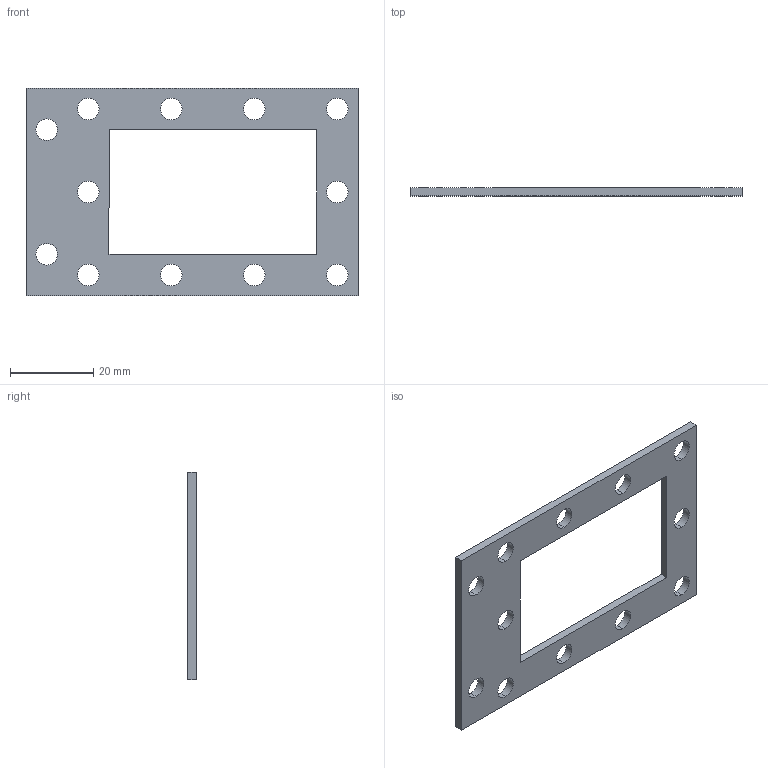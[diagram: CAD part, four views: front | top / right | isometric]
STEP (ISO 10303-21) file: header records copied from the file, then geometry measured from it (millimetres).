
FILE_DESCRIPTION (( 'STEP AP214' ), '1' );
FILE_NAME ('CESV-BS.STEP', '2019-05-17T11:35:05', ( '' ), ( '' ), 'SwSTEP 2.0', 'SolidWorks 2018', '' );
FILE_SCHEMA (( 'AUTOMOTIVE_DESIGN' ));
Length unit declared in the file: millimetre
Products named in the file (1): CESV-BS
Bounding box: 80 x 2 x 50 mm (x, y, z)
Volume: 4490.3 mm3; surface area: 5722.4 mm2
Topology: 1 solids, 1 shells, 34 faces, 96 edges, 64 vertices
Faces by surface type: cylinder 24, plane 10
Entity records: 1588 total; most frequent: DIRECTION 214, CARTESIAN_POINT 195, ORIENTED_EDGE 192, EDGE_CURVE 96, AXIS2_PLACEMENT_3D 83, VERTEX_POINT 64, EDGE_LOOP 60, LINE 48
